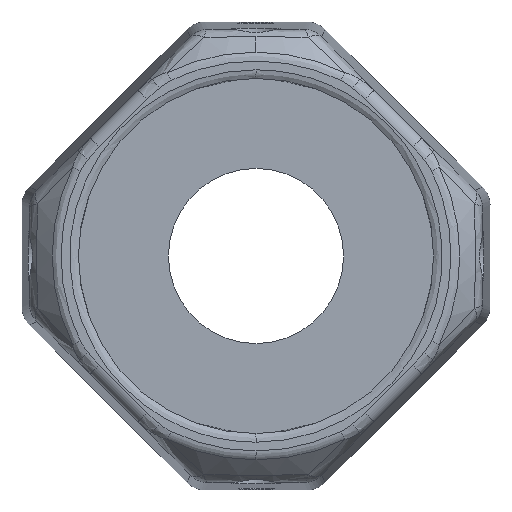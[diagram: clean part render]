
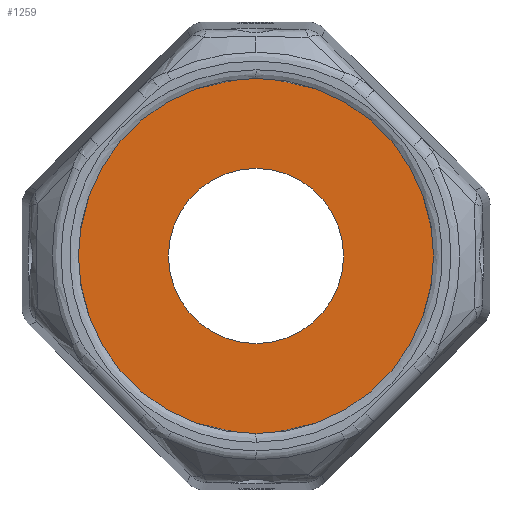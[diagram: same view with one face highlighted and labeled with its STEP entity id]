
A CAD part, front view. The second image highlights one B-rep face of the part: STEP entity #1259.
In plain terms, the highlighted planar face has unit normal (0, -1, 0).
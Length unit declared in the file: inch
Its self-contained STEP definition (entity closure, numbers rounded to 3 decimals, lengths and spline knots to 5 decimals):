
#233 = EDGE_CURVE ( 'NONE', #234, #235, #3437, .T. ) ;
#234 = VERTEX_POINT ( 'NONE', #3355 ) ;
#235 = VERTEX_POINT ( 'NONE', #3354 ) ;
#1067 = EDGE_CURVE ( 'NONE', #235, #1068, #6531, .T. ) ;
#1068 = VERTEX_POINT ( 'NONE', #6440 ) ;
#1165 = EDGE_CURVE ( 'NONE', #1068, #234, #6669, .T. ) ;
#1238 = ORIENTED_EDGE ( 'NONE', *, *, #1239, .F. ) ;
#1239 = EDGE_CURVE ( 'NONE', #1240, #1241, #6821, .T. ) ;
#1240 = VERTEX_POINT ( 'NONE', #6816 ) ;
#1241 = VERTEX_POINT ( 'NONE', #6815 ) ;
#1242 = ORIENTED_EDGE ( 'NONE', *, *, #1243, .F. ) ;
#1243 = EDGE_CURVE ( 'NONE', #1241, #1240, #6814, .T. ) ;
#1244 = EDGE_LOOP ( 'NONE', ( #1248, #1249, #1250 ) ) ;
#1248 = ORIENTED_EDGE ( 'NONE', *, *, #1165, .F. ) ;
#1249 = ORIENTED_EDGE ( 'NONE', *, *, #1067, .F. ) ;
#1250 = ORIENTED_EDGE ( 'NONE', *, *, #233, .F. ) ;
#1259 = ADVANCED_FACE ( 'NONE', ( #7123, #7163 ), #7162, .F. ) ;
#1260 = EDGE_LOOP ( 'NONE', ( #1238, #1242 ) ) ;
#3354 = CARTESIAN_POINT ( 'NONE',  ( 1.775, -0.875, 0. ) ) ;
#3355 = CARTESIAN_POINT ( 'NONE',  ( 0., -0.875, 1.775 ) ) ;
#3356 = DIRECTION ( 'NONE',  ( 1., 0., 0. ) ) ;
#3434 = DIRECTION ( 'NONE',  ( 0., 1., 0. ) ) ;
#3435 = CARTESIAN_POINT ( 'NONE',  ( 0., -0.875, 0. ) ) ;
#3436 = AXIS2_PLACEMENT_3D ( 'NONE', #3435, #3434, #3356 ) ;
#3437 = CIRCLE ( 'NONE', #3436, 1.775 ) ;
#6440 = CARTESIAN_POINT ( 'NONE',  ( 0., -0.875, -1.775 ) ) ;
#6441 = DIRECTION ( 'NONE',  ( 1., 0., 0. ) ) ;
#6442 = DIRECTION ( 'NONE',  ( 0., 1., 0. ) ) ;
#6443 = AXIS2_PLACEMENT_3D ( 'NONE', #6530, #6442, #6441 ) ;
#6530 = CARTESIAN_POINT ( 'NONE',  ( 0., -0.875, 0. ) ) ;
#6531 = CIRCLE ( 'NONE', #6443, 1.775 ) ;
#6665 = DIRECTION ( 'NONE',  ( 1., 0., 0. ) ) ;
#6666 = DIRECTION ( 'NONE',  ( 0., 1., 0. ) ) ;
#6667 = CARTESIAN_POINT ( 'NONE',  ( 0., -0.875, 0. ) ) ;
#6668 = AXIS2_PLACEMENT_3D ( 'NONE', #6667, #6666, #6665 ) ;
#6669 = CIRCLE ( 'NONE', #6668, 1.775 ) ;
#6810 = DIRECTION ( 'NONE',  ( 0., 0., -1. ) ) ;
#6811 = DIRECTION ( 'NONE',  ( 0., -1., 0. ) ) ;
#6812 = CARTESIAN_POINT ( 'NONE',  ( 0., -0.875, 0. ) ) ;
#6813 = AXIS2_PLACEMENT_3D ( 'NONE', #6812, #6811, #6810 ) ;
#6814 = CIRCLE ( 'NONE', #6813, 0.875 ) ;
#6815 = CARTESIAN_POINT ( 'NONE',  ( 0., -0.875, -0.875 ) ) ;
#6816 = CARTESIAN_POINT ( 'NONE',  ( 0., -0.875, 0.875 ) ) ;
#6817 = DIRECTION ( 'NONE',  ( 0., 0., -1. ) ) ;
#6818 = DIRECTION ( 'NONE',  ( 0., -1., 0. ) ) ;
#6819 = CARTESIAN_POINT ( 'NONE',  ( 0., -0.875, 0. ) ) ;
#6820 = AXIS2_PLACEMENT_3D ( 'NONE', #6819, #6818, #6817 ) ;
#6821 = CIRCLE ( 'NONE', #6820, 0.875 ) ;
#7123 = FACE_BOUND ( 'NONE', #1260, .T. ) ;
#7158 = DIRECTION ( 'NONE',  ( 0., 0., 1. ) ) ;
#7159 = DIRECTION ( 'NONE',  ( 0., 1., 0. ) ) ;
#7160 = CARTESIAN_POINT ( 'NONE',  ( -1.7963, -0.875, -1.7963 ) ) ;
#7161 = AXIS2_PLACEMENT_3D ( 'NONE', #7160, #7159, #7158 ) ;
#7162 = PLANE ( 'NONE',  #7161 ) ;
#7163 = FACE_OUTER_BOUND ( 'NONE', #1244, .T. ) ;
